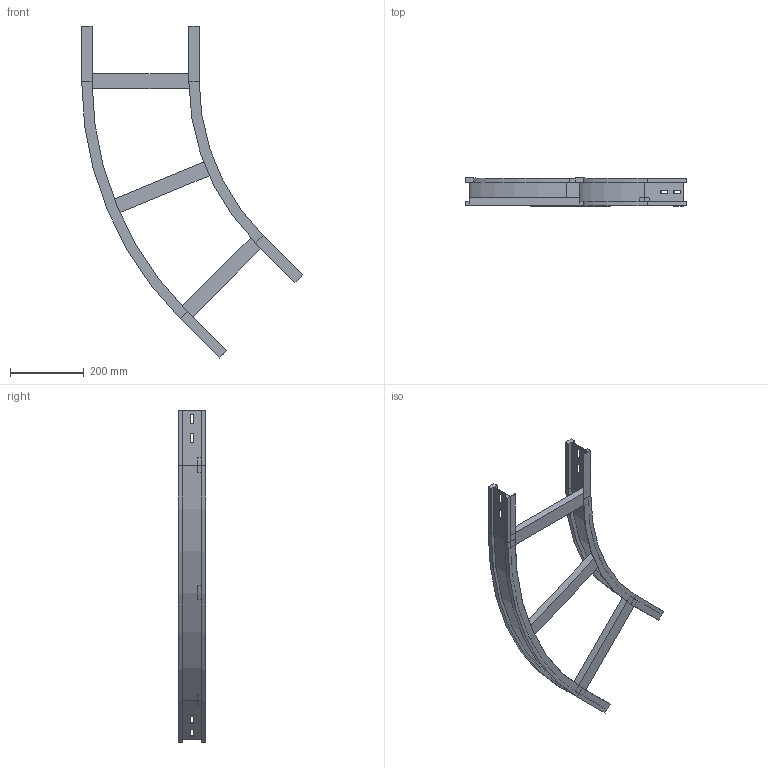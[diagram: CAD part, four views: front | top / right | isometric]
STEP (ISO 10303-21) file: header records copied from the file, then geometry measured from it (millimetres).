
FILE_DESCRIPTION (( 'STEP AP214' ), '1' );
FILE_NAME ('11S6C300.step', '2025-02-21T16:06:08', ( '' ), ( '' ), 'SwSTEP 2.0', 'SolidWorks 2023', '' );
FILE_SCHEMA (( 'AUTOMOTIVE_DESIGN' ));
Length unit declared in the file: millimetre
Products named in the file (4): LONGH.ESTERNO 45°_H75_R600+300; LONGH.INTERNO 45°_H75_R600; 11S6C300; TRAVERSINO_300
Assembly tree (5 placements, depth 2):
  11S6C300
    LONGH.INTERNO 45°_H75_R600
    LONGH.ESTERNO 45°_H75_R600+300
    TRAVERSINO_300  x3
Bounding box: 597.17 x 75 x 898.83 mm (x, y, z)
Volume: 1595167.4 mm3; surface area: 551048 mm2
Topology: 5 solids, 5 shells, 126 faces, 300 edges, 184 vertices
Faces by surface type: plane 114, cylinder 12
Entity records: 3389 total; most frequent: CARTESIAN_POINT 566, ORIENTED_EDGE 552, DIRECTION 544, EDGE_CURVE 276, LINE 252, VECTOR 252, VERTEX_POINT 168, AXIS2_PLACEMENT_3D 146
